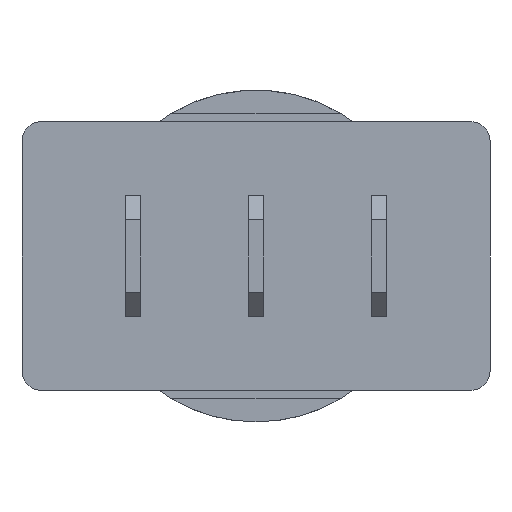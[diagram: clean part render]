
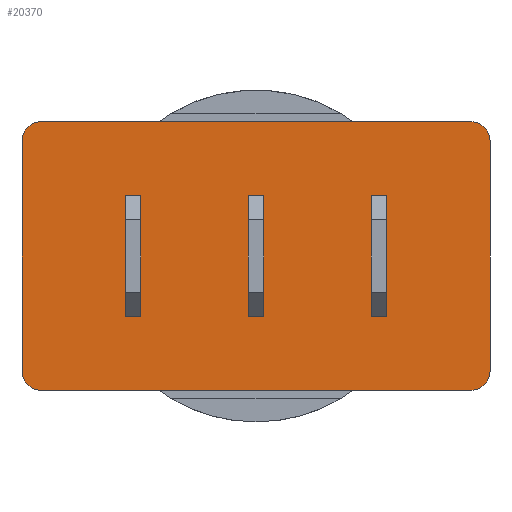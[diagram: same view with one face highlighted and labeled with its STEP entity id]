
A CAD part, front view. The second image highlights one B-rep face of the part: STEP entity #20370.
In plain terms, the highlighted planar face has unit normal (0, -1, 0).
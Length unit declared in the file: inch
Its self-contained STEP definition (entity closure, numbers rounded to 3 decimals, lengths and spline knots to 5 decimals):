
#1931=FACE_BOUND('',#4231,.T.);
#1932=FACE_BOUND('',#4232,.T.);
#1933=FACE_BOUND('',#4233,.T.);
#2060=PLANE('',#21712);
#3014=FACE_OUTER_BOUND('',#4230,.T.);
#4230=EDGE_LOOP('',(#13712,#13713,#13714,#13715,#13716,#13717,#13718,#13719));
#4231=EDGE_LOOP('',(#13720,#13721,#13722,#13723));
#4232=EDGE_LOOP('',(#13724,#13725,#13726,#13727));
#4233=EDGE_LOOP('',(#13728,#13729,#13730,#13731));
#5504=LINE('',#31717,#6573);
#5509=LINE('',#31727,#6578);
#5519=LINE('',#31746,#6588);
#5520=LINE('',#31748,#6589);
#5523=LINE('',#31760,#6592);
#5528=LINE('',#31770,#6597);
#5538=LINE('',#31789,#6607);
#5539=LINE('',#31791,#6608);
#5542=LINE('',#31803,#6611);
#5547=LINE('',#31813,#6616);
#5557=LINE('',#31832,#6626);
#5558=LINE('',#31834,#6627);
#5575=LINE('',#31900,#6644);
#5576=LINE('',#31902,#6645);
#5577=LINE('',#31905,#6646);
#5578=LINE('',#31907,#6647);
#6573=VECTOR('',#24657,0.3937);
#6578=VECTOR('',#24664,0.3937);
#6588=VECTOR('',#24682,0.3937);
#6589=VECTOR('',#24685,0.3937);
#6592=VECTOR('',#24696,0.3937);
#6597=VECTOR('',#24703,0.3937);
#6607=VECTOR('',#24721,0.3937);
#6608=VECTOR('',#24724,0.3937);
#6611=VECTOR('',#24735,0.3937);
#6616=VECTOR('',#24742,0.3937);
#6626=VECTOR('',#24760,0.3937);
#6627=VECTOR('',#24763,0.3937);
#6644=VECTOR('',#24838,0.3937);
#6645=VECTOR('',#24841,0.3937);
#6646=VECTOR('',#24846,0.3937);
#6647=VECTOR('',#24849,0.3937);
#7649=CIRCLE('',#21684,0.03937);
#7653=CIRCLE('',#21690,0.03937);
#7657=CIRCLE('',#21696,0.03937);
#7661=CIRCLE('',#21703,0.03937);
#8054=VERTEX_POINT('',#31714);
#8055=VERTEX_POINT('',#31716);
#8059=VERTEX_POINT('',#31726);
#8064=VERTEX_POINT('',#31744);
#8068=VERTEX_POINT('',#31757);
#8069=VERTEX_POINT('',#31759);
#8073=VERTEX_POINT('',#31769);
#8078=VERTEX_POINT('',#31787);
#8082=VERTEX_POINT('',#31800);
#8083=VERTEX_POINT('',#31802);
#8087=VERTEX_POINT('',#31812);
#8092=VERTEX_POINT('',#31830);
#8096=VERTEX_POINT('',#31843);
#8097=VERTEX_POINT('',#31844);
#8101=VERTEX_POINT('',#31856);
#8102=VERTEX_POINT('',#31857);
#8106=VERTEX_POINT('',#31869);
#8107=VERTEX_POINT('',#31870);
#8111=VERTEX_POINT('',#31885);
#8112=VERTEX_POINT('',#31886);
#10246=EDGE_CURVE('',#8055,#8054,#5504,.T.);
#10251=EDGE_CURVE('',#8059,#8055,#5509,.T.);
#10261=EDGE_CURVE('',#8054,#8064,#5519,.T.);
#10262=EDGE_CURVE('',#8064,#8059,#5520,.T.);
#10267=EDGE_CURVE('',#8069,#8068,#5523,.T.);
#10272=EDGE_CURVE('',#8073,#8069,#5528,.T.);
#10282=EDGE_CURVE('',#8068,#8078,#5538,.T.);
#10283=EDGE_CURVE('',#8078,#8073,#5539,.T.);
#10288=EDGE_CURVE('',#8083,#8082,#5542,.T.);
#10293=EDGE_CURVE('',#8087,#8083,#5547,.T.);
#10303=EDGE_CURVE('',#8082,#8092,#5557,.T.);
#10304=EDGE_CURVE('',#8092,#8087,#5558,.T.);
#10308=EDGE_CURVE('',#8096,#8097,#7649,.T.);
#10314=EDGE_CURVE('',#8101,#8102,#7653,.T.);
#10320=EDGE_CURVE('',#8106,#8107,#7657,.T.);
#10328=EDGE_CURVE('',#8111,#8112,#7661,.T.);
#10337=EDGE_CURVE('',#8107,#8096,#5575,.T.);
#10338=EDGE_CURVE('',#8112,#8106,#5576,.T.);
#10339=EDGE_CURVE('',#8102,#8111,#5577,.T.);
#10340=EDGE_CURVE('',#8097,#8101,#5578,.T.);
#13712=ORIENTED_EDGE('',*,*,#10308,.F.);
#13713=ORIENTED_EDGE('',*,*,#10337,.F.);
#13714=ORIENTED_EDGE('',*,*,#10320,.F.);
#13715=ORIENTED_EDGE('',*,*,#10338,.F.);
#13716=ORIENTED_EDGE('',*,*,#10328,.F.);
#13717=ORIENTED_EDGE('',*,*,#10339,.F.);
#13718=ORIENTED_EDGE('',*,*,#10314,.F.);
#13719=ORIENTED_EDGE('',*,*,#10340,.F.);
#13720=ORIENTED_EDGE('',*,*,#10246,.T.);
#13721=ORIENTED_EDGE('',*,*,#10261,.T.);
#13722=ORIENTED_EDGE('',*,*,#10262,.T.);
#13723=ORIENTED_EDGE('',*,*,#10251,.T.);
#13724=ORIENTED_EDGE('',*,*,#10267,.T.);
#13725=ORIENTED_EDGE('',*,*,#10282,.T.);
#13726=ORIENTED_EDGE('',*,*,#10283,.T.);
#13727=ORIENTED_EDGE('',*,*,#10272,.T.);
#13728=ORIENTED_EDGE('',*,*,#10288,.T.);
#13729=ORIENTED_EDGE('',*,*,#10303,.T.);
#13730=ORIENTED_EDGE('',*,*,#10304,.T.);
#13731=ORIENTED_EDGE('',*,*,#10293,.T.);
#20370=ADVANCED_FACE('',(#3014,#1931,#1932,#1933),#2060,.T.);
#21684=AXIS2_PLACEMENT_3D('',#31845,#24774,#24775);
#21690=AXIS2_PLACEMENT_3D('',#31858,#24788,#24789);
#21696=AXIS2_PLACEMENT_3D('',#31871,#24802,#24803);
#21703=AXIS2_PLACEMENT_3D('',#31887,#24820,#24821);
#21712=AXIS2_PLACEMENT_3D('',#31908,#24850,#24851);
#24657=DIRECTION('',(0.,0.,-1.));
#24664=DIRECTION('',(1.,0.,0.));
#24682=DIRECTION('',(-1.,0.,0.));
#24685=DIRECTION('',(0.,0.,1.));
#24696=DIRECTION('',(0.,0.,-1.));
#24703=DIRECTION('',(1.,0.,0.));
#24721=DIRECTION('',(-1.,0.,0.));
#24724=DIRECTION('',(0.,0.,1.));
#24735=DIRECTION('',(0.,0.,-1.));
#24742=DIRECTION('',(1.,0.,0.));
#24760=DIRECTION('',(-1.,0.,0.));
#24763=DIRECTION('',(0.,0.,1.));
#24774=DIRECTION('center_axis',(0.,1.,0.));
#24775=DIRECTION('ref_axis',(0.707,0.,0.707));
#24788=DIRECTION('center_axis',(0.,1.,0.));
#24789=DIRECTION('ref_axis',(0.707,0.,-0.707));
#24802=DIRECTION('center_axis',(0.,1.,0.));
#24803=DIRECTION('ref_axis',(-0.707,0.,0.707));
#24820=DIRECTION('center_axis',(0.,1.,0.));
#24821=DIRECTION('ref_axis',(-0.707,0.,-0.707));
#24838=DIRECTION('',(1.,0.,0.));
#24841=DIRECTION('',(0.,0.,1.));
#24846=DIRECTION('',(-1.,0.,0.));
#24849=DIRECTION('',(0.,0.,-1.));
#24850=DIRECTION('center_axis',(0.,-1.,0.));
#24851=DIRECTION('ref_axis',(0.,0.,-1.));
#31714=CARTESIAN_POINT('',(0.24409,0.,-0.39961));
#31716=CARTESIAN_POINT('',(0.24409,0.,-0.15157));
#31717=CARTESIAN_POINT('',(0.24409,0.,-0.27559));
#31726=CARTESIAN_POINT('',(0.2126,0.,-0.15157));
#31727=CARTESIAN_POINT('',(0.35433,0.,-0.15157));
#31744=CARTESIAN_POINT('',(0.2126,0.,-0.39961));
#31746=CARTESIAN_POINT('',(0.35433,0.,-0.39961));
#31748=CARTESIAN_POINT('',(0.2126,0.,-0.27559));
#31757=CARTESIAN_POINT('',(0.74803,0.,-0.39961));
#31759=CARTESIAN_POINT('',(0.74803,0.,-0.15157));
#31760=CARTESIAN_POINT('',(0.74803,0.,-0.27559));
#31769=CARTESIAN_POINT('',(0.71654,0.,-0.15157));
#31770=CARTESIAN_POINT('',(0.6063,0.,-0.15157));
#31787=CARTESIAN_POINT('',(0.71654,0.,-0.39961));
#31789=CARTESIAN_POINT('',(0.6063,0.,-0.39961));
#31791=CARTESIAN_POINT('',(0.71654,0.,-0.27559));
#31800=CARTESIAN_POINT('',(0.49606,0.,-0.39961));
#31802=CARTESIAN_POINT('',(0.49606,0.,-0.15157));
#31803=CARTESIAN_POINT('',(0.49606,0.,-0.27559));
#31812=CARTESIAN_POINT('',(0.46457,0.,-0.15157));
#31813=CARTESIAN_POINT('',(0.48031,0.,-0.15157));
#31830=CARTESIAN_POINT('',(0.46457,0.,-0.39961));
#31832=CARTESIAN_POINT('',(0.48031,0.,-0.39961));
#31834=CARTESIAN_POINT('',(0.46457,0.,-0.27559));
#31843=CARTESIAN_POINT('',(0.92126,0.,0.));
#31844=CARTESIAN_POINT('',(0.96063,0.,-0.03937));
#31845=CARTESIAN_POINT('Origin',(0.92126,0.,-0.03937));
#31856=CARTESIAN_POINT('',(0.96063,0.,-0.51181));
#31857=CARTESIAN_POINT('',(0.92126,0.,-0.55118));
#31858=CARTESIAN_POINT('Origin',(0.92126,0.,-0.51181));
#31869=CARTESIAN_POINT('',(0.,0.,-0.03937));
#31870=CARTESIAN_POINT('',(0.03937,0.,0.));
#31871=CARTESIAN_POINT('Origin',(0.03937,0.,-0.03937));
#31885=CARTESIAN_POINT('',(0.03937,0.,-0.55118));
#31886=CARTESIAN_POINT('',(0.,0.,-0.51181));
#31887=CARTESIAN_POINT('Origin',(0.03937,0.,-0.51181));
#31900=CARTESIAN_POINT('',(0.,0.,0.));
#31902=CARTESIAN_POINT('',(0.,0.,-0.55118));
#31905=CARTESIAN_POINT('',(0.96063,0.,-0.55118));
#31907=CARTESIAN_POINT('',(0.96063,0.,0.));
#31908=CARTESIAN_POINT('Origin',(0.48031,0.,-0.27559));
